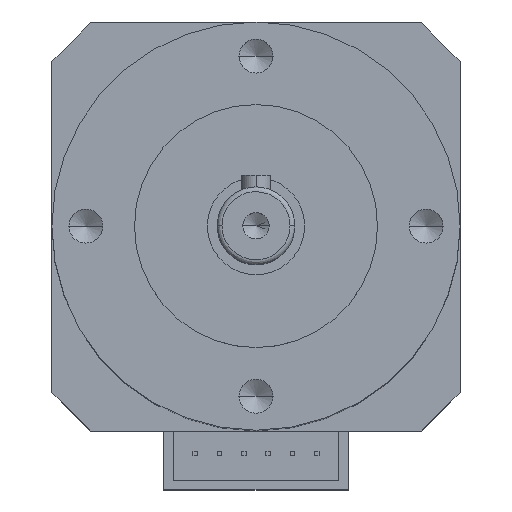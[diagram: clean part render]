
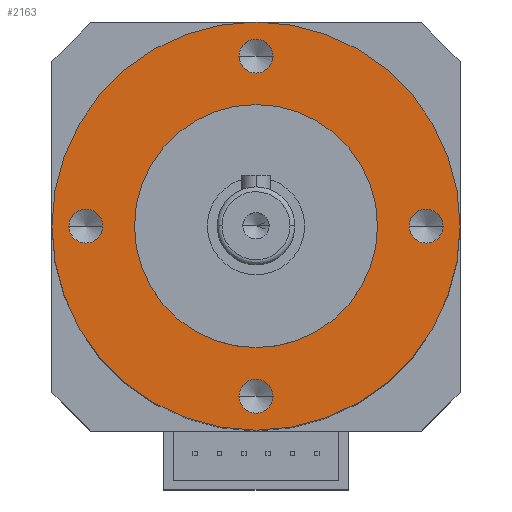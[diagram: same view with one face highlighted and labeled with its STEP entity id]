
A CAD part, top view. The second image highlights one B-rep face of the part: STEP entity #2163.
In plain terms, the highlighted planar face has unit normal (0, 0, 1).
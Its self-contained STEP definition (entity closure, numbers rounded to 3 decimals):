
#7 = EDGE_CURVE ( 'NONE', #1481, #339, #1061, .T. ) ;
#19 = AXIS2_PLACEMENT_3D ( 'NONE', #2806, #1454, #937 ) ;
#54 = CARTESIAN_POINT ( 'NONE',  ( -1.75, -17.5, 0. ) ) ;
#56 = EDGE_LOOP ( 'NONE', ( #1387, #1509 ) ) ;
#124 = FACE_BOUND ( 'NONE', #56, .T. ) ;
#210 = CIRCLE ( 'NONE', #1617, 1.75 ) ;
#242 = CIRCLE ( 'NONE', #965, 12.5 ) ;
#329 = EDGE_CURVE ( 'NONE', #1294, #2490, #1574, .T. ) ;
#330 = CIRCLE ( 'NONE', #3181, 1.75 ) ;
#339 = VERTEX_POINT ( 'NONE', #2899 ) ;
#359 = EDGE_LOOP ( 'NONE', ( #1160, #2223 ) ) ;
#361 = CIRCLE ( 'NONE', #3475, 1.75 ) ;
#401 = ORIENTED_EDGE ( 'NONE', *, *, #1054, .F. ) ;
#488 = DIRECTION ( 'NONE',  ( -1., 0., 0. ) ) ;
#516 = ORIENTED_EDGE ( 'NONE', *, *, #3168, .F. ) ;
#517 = DIRECTION ( 'NONE',  ( -1., 0., 0. ) ) ;
#518 = DIRECTION ( 'NONE',  ( -1., 0., 0. ) ) ;
#526 = CIRCLE ( 'NONE', #1488, 21. ) ;
#571 = VERTEX_POINT ( 'NONE', #54 ) ;
#588 = CARTESIAN_POINT ( 'NONE',  ( 1.75, -17.5, 0. ) ) ;
#597 = VERTEX_POINT ( 'NONE', #3041 ) ;
#615 = ORIENTED_EDGE ( 'NONE', *, *, #2679, .F. ) ;
#744 = VERTEX_POINT ( 'NONE', #2812 ) ;
#772 = DIRECTION ( 'NONE',  ( -1., 0., 0. ) ) ;
#794 = DIRECTION ( 'NONE',  ( 0., 0., 1. ) ) ;
#902 = DIRECTION ( 'NONE',  ( 0., 0., 1. ) ) ;
#910 = CARTESIAN_POINT ( 'NONE',  ( 0., 17.5, 0. ) ) ;
#926 = FACE_OUTER_BOUND ( 'NONE', #979, .T. ) ;
#937 = DIRECTION ( 'NONE',  ( -1., 0., 0. ) ) ;
#965 = AXIS2_PLACEMENT_3D ( 'NONE', #2146, #3505, #518 ) ;
#979 = EDGE_LOOP ( 'NONE', ( #516, #2386 ) ) ;
#1021 = ORIENTED_EDGE ( 'NONE', *, *, #1563, .F. ) ;
#1029 = DIRECTION ( 'NONE',  ( -1., 0., 0. ) ) ;
#1054 = EDGE_CURVE ( 'NONE', #2505, #597, #330, .T. ) ;
#1056 = DIRECTION ( 'NONE',  ( 0., 0., 1. ) ) ;
#1061 = CIRCLE ( 'NONE', #2182, 21. ) ;
#1064 = DIRECTION ( 'NONE',  ( 0., 0., 1. ) ) ;
#1065 = CARTESIAN_POINT ( 'NONE',  ( 0., 17.5, 0. ) ) ;
#1074 = VERTEX_POINT ( 'NONE', #588 ) ;
#1152 = DIRECTION ( 'NONE',  ( -1., 0., 0. ) ) ;
#1160 = ORIENTED_EDGE ( 'NONE', *, *, #3413, .F. ) ;
#1205 = CARTESIAN_POINT ( 'NONE',  ( 0., 0., 0. ) ) ;
#1270 = FACE_BOUND ( 'NONE', #359, .T. ) ;
#1294 = VERTEX_POINT ( 'NONE', #3345 ) ;
#1315 = CARTESIAN_POINT ( 'NONE',  ( 17.5, 0., 0. ) ) ;
#1370 = CARTESIAN_POINT ( 'NONE',  ( 12.5, 0., 0. ) ) ;
#1387 = ORIENTED_EDGE ( 'NONE', *, *, #3480, .F. ) ;
#1415 = CARTESIAN_POINT ( 'NONE',  ( 17.5, 0., 0. ) ) ;
#1418 = ORIENTED_EDGE ( 'NONE', *, *, #329, .F. ) ;
#1435 = AXIS2_PLACEMENT_3D ( 'NONE', #2210, #3039, #2224 ) ;
#1454 = DIRECTION ( 'NONE',  ( 0., 0., 1. ) ) ;
#1481 = VERTEX_POINT ( 'NONE', #1669 ) ;
#1488 = AXIS2_PLACEMENT_3D ( 'NONE', #1860, #3236, #488 ) ;
#1489 = AXIS2_PLACEMENT_3D ( 'NONE', #3455, #2649, #1029 ) ;
#1496 = EDGE_CURVE ( 'NONE', #3420, #3087, #242, .T. ) ;
#1502 = ORIENTED_EDGE ( 'NONE', *, *, #3396, .F. ) ;
#1509 = ORIENTED_EDGE ( 'NONE', *, *, #1496, .F. ) ;
#1519 = PLANE ( 'NONE',  #2209 ) ;
#1523 = FACE_BOUND ( 'NONE', #3163, .T. ) ;
#1527 = CIRCLE ( 'NONE', #1435, 1.75 ) ;
#1563 = EDGE_CURVE ( 'NONE', #597, #2505, #1652, .T. ) ;
#1574 = CIRCLE ( 'NONE', #1489, 1.75 ) ;
#1593 = DIRECTION ( 'NONE',  ( -1., 0., 0. ) ) ;
#1617 = AXIS2_PLACEMENT_3D ( 'NONE', #1415, #3348, #1152 ) ;
#1652 = CIRCLE ( 'NONE', #3030, 1.75 ) ;
#1669 = CARTESIAN_POINT ( 'NONE',  ( -21., 0., 0. ) ) ;
#1699 = CIRCLE ( 'NONE', #19, 12.5 ) ;
#1712 = DIRECTION ( 'NONE',  ( -1., 0., 0. ) ) ;
#1763 = CARTESIAN_POINT ( 'NONE',  ( -21., -21., 0. ) ) ;
#1816 = CIRCLE ( 'NONE', #2429, 1.75 ) ;
#1860 = CARTESIAN_POINT ( 'NONE',  ( 0., 0., 0. ) ) ;
#1879 = CARTESIAN_POINT ( 'NONE',  ( 0., -17.5, 0. ) ) ;
#1983 = AXIS2_PLACEMENT_3D ( 'NONE', #1879, #1056, #772 ) ;
#1992 = FACE_BOUND ( 'NONE', #2891, .T. ) ;
#1995 = CARTESIAN_POINT ( 'NONE',  ( -1.75, 17.5, 0. ) ) ;
#2020 = DIRECTION ( 'NONE',  ( -1., 0., 0. ) ) ;
#2099 = CARTESIAN_POINT ( 'NONE',  ( -12.5, 0., 0. ) ) ;
#2146 = CARTESIAN_POINT ( 'NONE',  ( 0., 0., 0. ) ) ;
#2163 = ADVANCED_FACE ( 'NONE', ( #124, #1992, #1523, #1270, #3126, #926 ), #1519, .F. ) ;
#2182 = AXIS2_PLACEMENT_3D ( 'NONE', #1205, #2510, #3358 ) ;
#2209 = AXIS2_PLACEMENT_3D ( 'NONE', #1763, #2573, #2020 ) ;
#2210 = CARTESIAN_POINT ( 'NONE',  ( -17.5, 0., 0. ) ) ;
#2223 = ORIENTED_EDGE ( 'NONE', *, *, #2666, .F. ) ;
#2224 = DIRECTION ( 'NONE',  ( -1., 0., 0. ) ) ;
#2308 = CARTESIAN_POINT ( 'NONE',  ( -15.75, 0., 0. ) ) ;
#2386 = ORIENTED_EDGE ( 'NONE', *, *, #7, .F. ) ;
#2413 = CARTESIAN_POINT ( 'NONE',  ( 0., -17.5, 0. ) ) ;
#2429 = AXIS2_PLACEMENT_3D ( 'NONE', #1315, #794, #517 ) ;
#2453 = DIRECTION ( 'NONE',  ( 0., 0., 1. ) ) ;
#2473 = CARTESIAN_POINT ( 'NONE',  ( 15.75, 0., 0. ) ) ;
#2490 = VERTEX_POINT ( 'NONE', #2308 ) ;
#2505 = VERTEX_POINT ( 'NONE', #1995 ) ;
#2510 = DIRECTION ( 'NONE',  ( 0., 0., -1. ) ) ;
#2567 = EDGE_LOOP ( 'NONE', ( #615, #3309 ) ) ;
#2573 = DIRECTION ( 'NONE',  ( 0., 0., -1. ) ) ;
#2649 = DIRECTION ( 'NONE',  ( 0., 0., 1. ) ) ;
#2666 = EDGE_CURVE ( 'NONE', #744, #2745, #1816, .T. ) ;
#2679 = EDGE_CURVE ( 'NONE', #571, #1074, #361, .T. ) ;
#2705 = DIRECTION ( 'NONE',  ( -1., 0., 0. ) ) ;
#2745 = VERTEX_POINT ( 'NONE', #2473 ) ;
#2806 = CARTESIAN_POINT ( 'NONE',  ( 0., 0., 0. ) ) ;
#2812 = CARTESIAN_POINT ( 'NONE',  ( 19.25, 0., 0. ) ) ;
#2891 = EDGE_LOOP ( 'NONE', ( #1418, #1502 ) ) ;
#2899 = CARTESIAN_POINT ( 'NONE',  ( 21., 0., 0. ) ) ;
#3030 = AXIS2_PLACEMENT_3D ( 'NONE', #1065, #2453, #2705 ) ;
#3039 = DIRECTION ( 'NONE',  ( 0., 0., 1. ) ) ;
#3041 = CARTESIAN_POINT ( 'NONE',  ( 1.75, 17.5, 0. ) ) ;
#3077 = CIRCLE ( 'NONE', #1983, 1.75 ) ;
#3087 = VERTEX_POINT ( 'NONE', #2099 ) ;
#3126 = FACE_BOUND ( 'NONE', #2567, .T. ) ;
#3163 = EDGE_LOOP ( 'NONE', ( #401, #1021 ) ) ;
#3168 = EDGE_CURVE ( 'NONE', #339, #1481, #526, .T. ) ;
#3181 = AXIS2_PLACEMENT_3D ( 'NONE', #910, #902, #1712 ) ;
#3188 = EDGE_CURVE ( 'NONE', #1074, #571, #3077, .T. ) ;
#3236 = DIRECTION ( 'NONE',  ( 0., 0., -1. ) ) ;
#3309 = ORIENTED_EDGE ( 'NONE', *, *, #3188, .F. ) ;
#3345 = CARTESIAN_POINT ( 'NONE',  ( -19.25, 0., 0. ) ) ;
#3348 = DIRECTION ( 'NONE',  ( 0., 0., 1. ) ) ;
#3358 = DIRECTION ( 'NONE',  ( -1., 0., 0. ) ) ;
#3396 = EDGE_CURVE ( 'NONE', #2490, #1294, #1527, .T. ) ;
#3413 = EDGE_CURVE ( 'NONE', #2745, #744, #210, .T. ) ;
#3420 = VERTEX_POINT ( 'NONE', #1370 ) ;
#3455 = CARTESIAN_POINT ( 'NONE',  ( -17.5, 0., 0. ) ) ;
#3475 = AXIS2_PLACEMENT_3D ( 'NONE', #2413, #1064, #1593 ) ;
#3480 = EDGE_CURVE ( 'NONE', #3087, #3420, #1699, .T. ) ;
#3505 = DIRECTION ( 'NONE',  ( 0., 0., 1. ) ) ;
